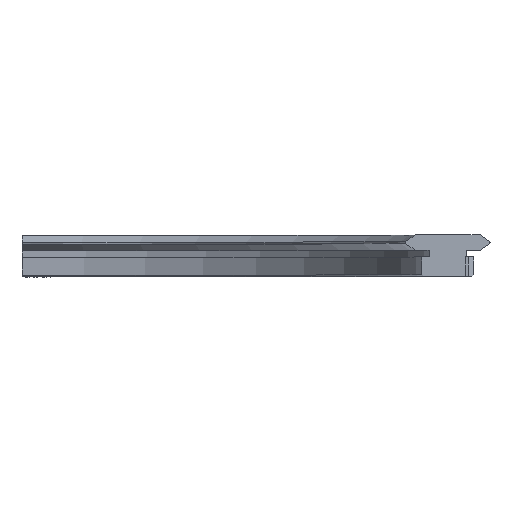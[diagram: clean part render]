
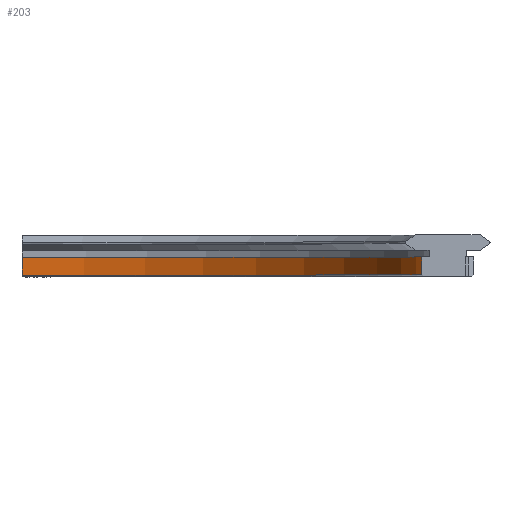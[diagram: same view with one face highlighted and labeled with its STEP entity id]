
A CAD part, top view. The second image highlights one B-rep face of the part: STEP entity #203.
In plain terms, the highlighted cylindrical face has radius 119.8 mm (diameter 239.6 mm), a partial arc.
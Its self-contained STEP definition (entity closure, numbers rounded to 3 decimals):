
#203 = ADVANCED_FACE( '', ( #860 ), #861, .F. );
#860 = FACE_OUTER_BOUND( '', #1928, .T. );
#861 = CYLINDRICAL_SURFACE( '', #1929, 119.8 );
#1928 = EDGE_LOOP( '', ( #3898, #3899, #3900, #3901 ) );
#1929 = AXIS2_PLACEMENT_3D( '', #3902, #3903, #3904 );
#3898 = ORIENTED_EDGE( '', *, *, #7845, .T. );
#3899 = ORIENTED_EDGE( '', *, *, #7846, .T. );
#3900 = ORIENTED_EDGE( '', *, *, #7847, .F. );
#3901 = ORIENTED_EDGE( '', *, *, #7129, .T. );
#3902 = CARTESIAN_POINT( '', ( 0., 0., 0. ) );
#3903 = DIRECTION( '', ( 0., 1., 0. ) );
#3904 = DIRECTION( '', ( 0., 0., -1. ) );
#7129 = EDGE_CURVE( '', #8538, #8536, #8539, .T. );
#7845 = EDGE_CURVE( '', #8536, #9925, #9927, .T. );
#7846 = EDGE_CURVE( '', #9925, #9928, #9929, .F. );
#7847 = EDGE_CURVE( '', #8538, #9928, #9930, .T. );
#8536 = VERTEX_POINT( '', #10824 );
#8538 = VERTEX_POINT( '', #10829 );
#8539 = LINE( '', #10830, #10831 );
#9925 = VERTEX_POINT( '', #13196 );
#9927 = CIRCLE( '', #13201, 119.8 );
#9928 = VERTEX_POINT( '', #13202 );
#9929 = LINE( '', #13203, #13204 );
#9930 = CIRCLE( '', #13205, 119.8 );
#10824 = CARTESIAN_POINT( '', ( 1., 0.5, -119.796 ) );
#10829 = CARTESIAN_POINT( '', ( 1., 5.75, -119.796 ) );
#10830 = CARTESIAN_POINT( '', ( 1., 0., -119.796 ) );
#10831 = VECTOR( '', #14397, 1000. );
#13196 = CARTESIAN_POINT( '', ( 119.796, 0.5, -1. ) );
#13201 = AXIS2_PLACEMENT_3D( '', #14988, #14989, #14990 );
#13202 = CARTESIAN_POINT( '', ( 119.796, 5.75, -1. ) );
#13203 = CARTESIAN_POINT( '', ( 119.796, 0., -1. ) );
#13204 = VECTOR( '', #14991, 1000. );
#13205 = AXIS2_PLACEMENT_3D( '', #14992, #14993, #14994 );
#14397 = DIRECTION( '', ( 0., -1., 0. ) );
#14988 = CARTESIAN_POINT( '', ( 0., 0.5, 0. ) );
#14989 = DIRECTION( '', ( 0., -1., 0. ) );
#14990 = DIRECTION( '', ( 0., 0., -1. ) );
#14991 = DIRECTION( '', ( 0., -1., 0. ) );
#14992 = CARTESIAN_POINT( '', ( 0., 5.75, 0. ) );
#14993 = DIRECTION( '', ( 0., -1., 0. ) );
#14994 = DIRECTION( '', ( 0., 0., -1. ) );
